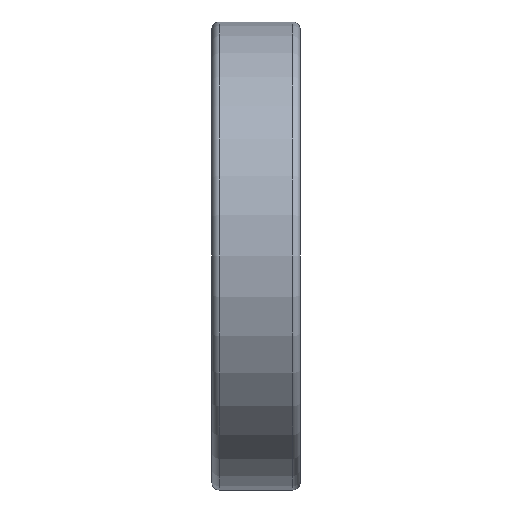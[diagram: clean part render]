
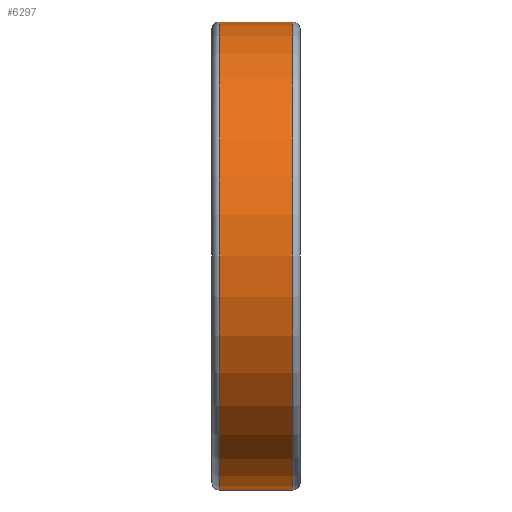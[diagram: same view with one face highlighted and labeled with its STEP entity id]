
A CAD part, front view. The second image highlights one B-rep face of the part: STEP entity #6297.
In plain terms, the highlighted cylindrical face has radius 31.83 mm (diameter 63.66 mm), a full revolution.
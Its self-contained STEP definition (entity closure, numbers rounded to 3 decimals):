
#761 = CARTESIAN_POINT ( 'NONE',  ( -11., 0., 31.83 ) ) ;
#1126 = AXIS2_PLACEMENT_3D ( 'NONE', #7891, #3499, #5465 ) ;
#1633 = CYLINDRICAL_SURFACE ( 'NONE', #1126, 31.83 ) ;
#1720 = CIRCLE ( 'NONE', #7824, 31.83 ) ;
#1724 = DIRECTION ( 'NONE',  ( 0., 0., 1. ) ) ;
#2160 = EDGE_LOOP ( 'NONE', ( #7366 ) ) ;
#2376 = CIRCLE ( 'NONE', #6940, 31.83 ) ;
#2507 = CARTESIAN_POINT ( 'NONE',  ( -11., 0., 0. ) ) ;
#2733 = EDGE_LOOP ( 'NONE', ( #2771 ) ) ;
#2771 = ORIENTED_EDGE ( 'NONE', *, *, #3325, .T. ) ;
#2933 = FACE_OUTER_BOUND ( 'NONE', #2160, .T. ) ;
#3037 = EDGE_CURVE ( 'NONE', #6339, #6339, #1720, .T. ) ;
#3325 = EDGE_CURVE ( 'NONE', #7655, #7655, #2376, .T. ) ;
#3499 = DIRECTION ( 'NONE',  ( -1., 0., 0. ) ) ;
#3606 = DIRECTION ( 'NONE',  ( 0., 0., 1. ) ) ;
#5465 = DIRECTION ( 'NONE',  ( 0., 0., 1. ) ) ;
#6095 = CARTESIAN_POINT ( 'NONE',  ( -1., 0., 0. ) ) ;
#6297 = ADVANCED_FACE ( 'NONE', ( #2933, #7804 ), #1633, .T. ) ;
#6339 = VERTEX_POINT ( 'NONE', #761 ) ;
#6787 = DIRECTION ( 'NONE',  ( -1., 0., 0. ) ) ;
#6915 = CARTESIAN_POINT ( 'NONE',  ( -1., 0., 31.83 ) ) ;
#6940 = AXIS2_PLACEMENT_3D ( 'NONE', #6095, #6787, #1724 ) ;
#7366 = ORIENTED_EDGE ( 'NONE', *, *, #3037, .F. ) ;
#7655 = VERTEX_POINT ( 'NONE', #6915 ) ;
#7804 = FACE_OUTER_BOUND ( 'NONE', #2733, .T. ) ;
#7824 = AXIS2_PLACEMENT_3D ( 'NONE', #2507, #7917, #3606 ) ;
#7891 = CARTESIAN_POINT ( 'NONE',  ( 0., 0., 0. ) ) ;
#7917 = DIRECTION ( 'NONE',  ( -1., 0., 0. ) ) ;
